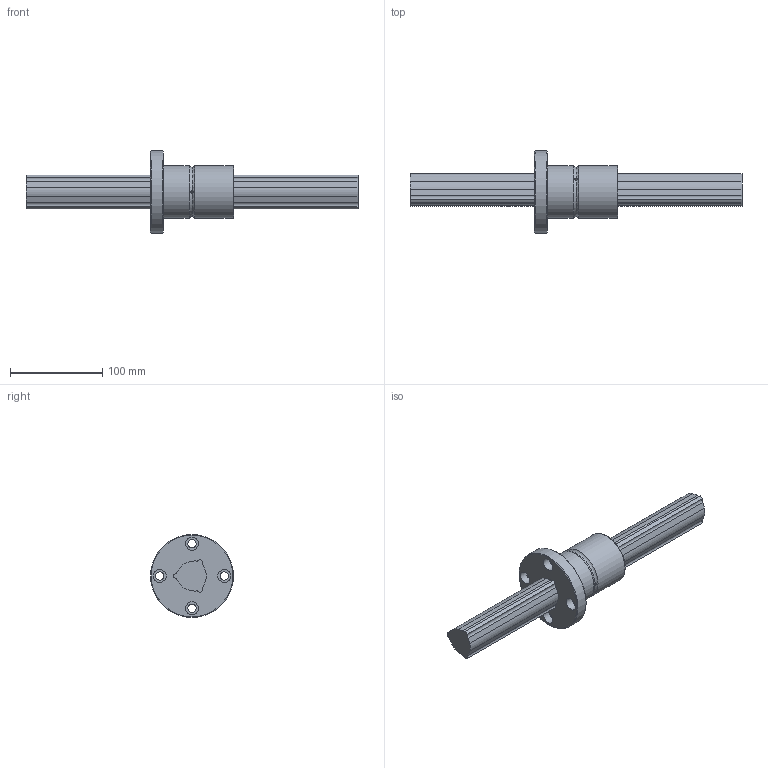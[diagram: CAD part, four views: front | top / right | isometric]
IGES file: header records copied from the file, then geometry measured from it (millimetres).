
Start section: Data from Parasolid IGES Translator 26.0.171, Copyright(c) 2006 Siemens PLM Software. All Rights Reserved.
Global section: file name: LBF40+360L(3601350).igs; native system: By Siemens PLM Incorporated; preprocessor: XPlus GENERIC/IGES 26.0.171; author: Noname; organization: Noname; date: 20240523.120502; units: millimetre
Bounding box: 360 x 90 x 90 mm (x, y, z)
Surface area: 84104.5 mm2 (no closed solid volume)
Topology: 0 solids, 0 shells, 71 faces, 356 edges, 337 vertices
Faces by surface type: revolution 47, extrusion 24
